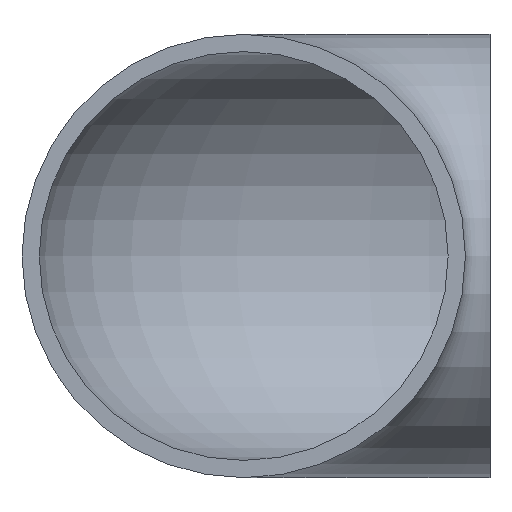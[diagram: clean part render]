
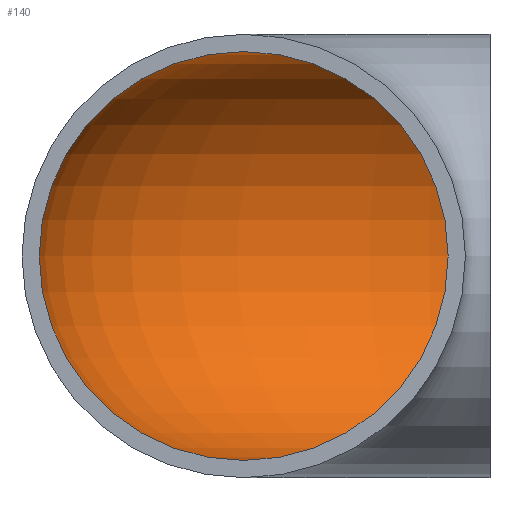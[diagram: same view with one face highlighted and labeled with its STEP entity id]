
A CAD part, front view. The second image highlights one B-rep face of the part: STEP entity #140.
In plain terms, the highlighted toroidal (fillet/blend) face has major radius 50 mm and minor radius 41.5 mm.
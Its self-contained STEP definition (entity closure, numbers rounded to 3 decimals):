
#12=TOROIDAL_SURFACE($,#160,50.,41.5);
#25=FACE_BOUND($,#64,.T.);
#39=CIRCLE($,#161,41.5);
#40=CIRCLE($,#162,41.5);
#49=FACE_OUTER_BOUND($,#63,.T.);
#63=EDGE_LOOP($,(#108));
#64=EDGE_LOOP($,(#109));
#82=VERTEX_POINT($,#276);
#83=VERTEX_POINT($,#278);
#93=EDGE_CURVE($,#82,#82,#39,.T.);
#94=EDGE_CURVE($,#83,#83,#40,.T.);
#108=ORIENTED_EDGE($,*,*,#93,.T.);
#109=ORIENTED_EDGE($,*,*,#94,.F.);
#140=ADVANCED_FACE($,(#49,#25),#12,.F.);
#160=AXIS2_PLACEMENT_3D($,#275,#195,#196);
#161=AXIS2_PLACEMENT_3D($,#277,#197,#198);
#162=AXIS2_PLACEMENT_3D($,#279,#199,#200);
#195=DIRECTION('center_axis',(0.,0.,-1.));
#196=DIRECTION('ref_axis',(-1.,0.,0.));
#197=DIRECTION('center_axis',(0.,-1.,0.));
#198=DIRECTION('ref_axis',(1.,0.,0.));
#199=DIRECTION('center_axis',(-1.,0.,0.));
#200=DIRECTION('ref_axis',(0.,1.,0.));
#275=CARTESIAN_POINT('Origin',(50.,220.,0.));
#276=CARTESIAN_POINT('',(-41.5,220.,0.));
#277=CARTESIAN_POINT('Origin',(0.,220.,0.));
#278=CARTESIAN_POINT('',(50.,311.5,0.));
#279=CARTESIAN_POINT('Origin',(50.,270.,0.));
